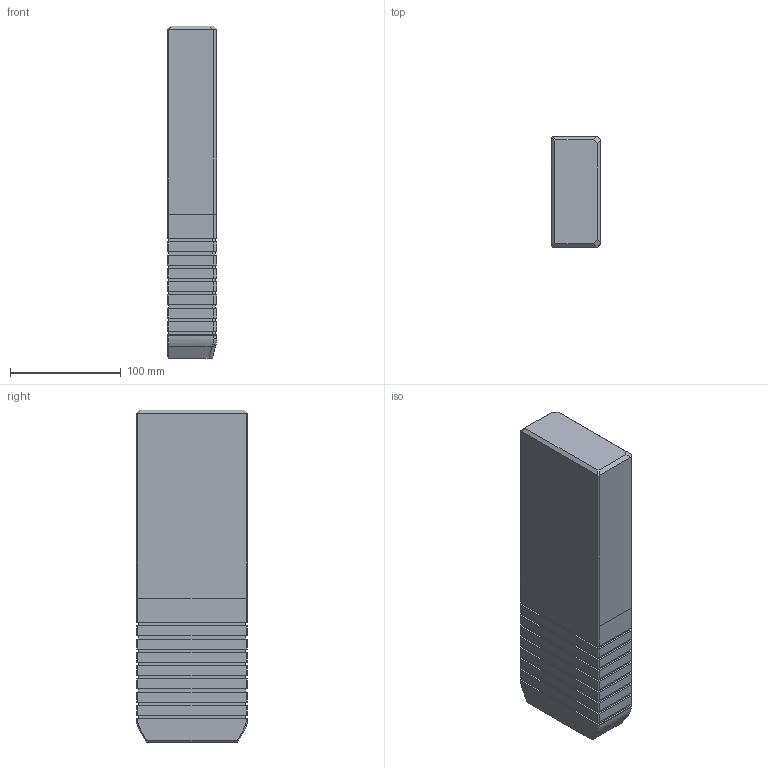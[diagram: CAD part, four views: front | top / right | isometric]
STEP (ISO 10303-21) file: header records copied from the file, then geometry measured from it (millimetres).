
FILE_DESCRIPTION((''),'2;1');
FILE_NAME('','2010-08-30T13:16:59+09:00',('misumi'),(''),'M/STEP i/f 1R2-14','CADmeister v5.1','');
FILE_SCHEMA(('AUTOMOTIVE_DESIGN'));
Length unit declared in the file: millimetre
Products named in the file (1): GWZ100-300
Bounding box: 45 x 100 x 300 mm (x, y, z)
Volume: 1323402.8 mm3; surface area: 100399.3 mm2
Topology: 1 solids, 1 shells, 192 faces, 497 edges, 324 vertices
Faces by surface type: plane 179, bspline 6, cylinder 5, cone 2
Entity records: 6087 total; most frequent: CARTESIAN_POINT 1356, ORIENTED_EDGE 994, DIRECTION 861, EDGE_CURVE 497, LINE 471, VECTOR 471, VERTEX_POINT 324, EDGE_LOOP 209
